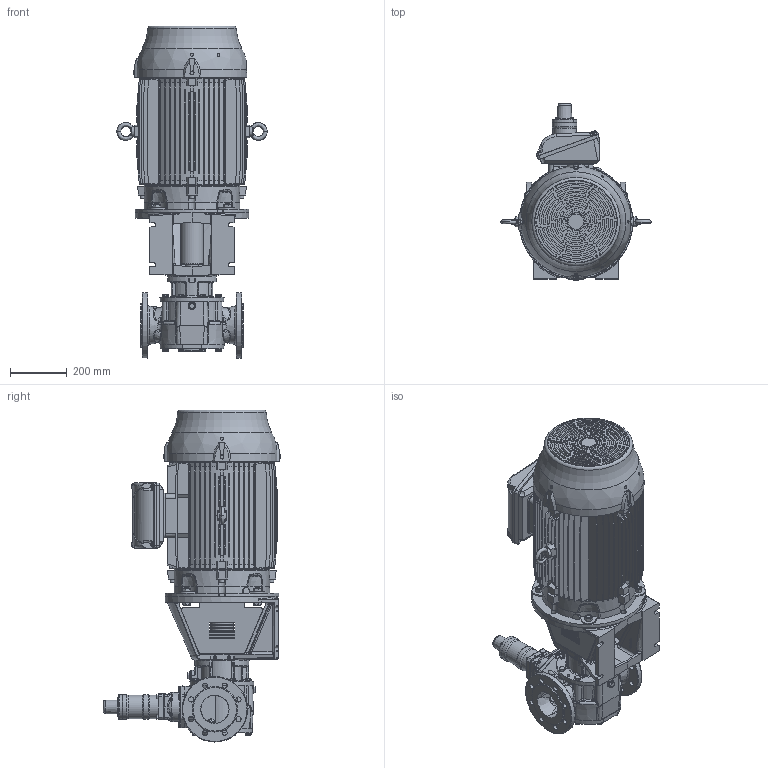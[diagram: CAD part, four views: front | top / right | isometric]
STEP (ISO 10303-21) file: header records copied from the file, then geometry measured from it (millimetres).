
FILE_DESCRIPTION(/* description */ (''),/* implementation_level */ '2;1');
FILE_NAME(/* name */ 'C:\V\JPP\Designs\GEAR PUMPS\PRODUCT ENGINEERING\EUROPE\TG BLOC\TG BLOC_86-100_G2_O_RV1-_200L-STEP.stp',/* time_stamp */ '2021-03-19T14:28:09+01:00',/* author */ ('A77THR'),/* organization */ (''),/* preprocessor_version */ 'ST-DEVELOPER v18.1',/* originating_system */ 'Autodesk Inventor 2020',/* authorisation */ '');
FILE_SCHEMA (('CONFIG_CONTROL_DESIGN','AUTOMOTIVE_DESIGN { 1 0 10303 214 3 1 1 }','TECHNICAL_DATA_PACKAGING','INTEGRATED_CNC_SCHEMA'));
Length unit declared in the file: millimetre
Products named in the file (1): TG BLOC_86-100_G2_O_RV1-_200L
Bounding box: 527.98 x 623.54 x 1166.26 mm (x, y, z)
Volume: 85169284.7 mm3; surface area: 3568548 mm2
Topology: 1 solids, 1 shells, 4739 faces, 12574 edges, 8004 vertices
Faces by surface type: plane 1841, cylinder 1134, bspline 1014, cone 557, torus 145, sphere 48
Full cylindrical faces by diameter (mm): 4 x1, 4.5 x4, 4.917 x4, 5.459 x4, 6 x4, 6.3 x1, 6.647 x1, 7 x4, 7.323 x4, 7.444 x3, 8 x7, 8.7 x4, 9 x6, 9.188 x8, 10 x16, 10.106 x7, 10.2 x2, 11 x8, 11.053 x4, 11.4 x4, 11.445 x2, 11.6 x3, 12 x4, 13 x1, 13.157 x2, 13.2 x2, 14 x8, 15.011 x2, 15.4 x8, 17.2 x20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
Entity records: 209511 total; most frequent: CARTESIAN_POINT 94904, ORIENTED_EDGE 24932, DIRECTION 20739, EDGE_CURVE 12466, AXIS2_PLACEMENT_3D 8059, VERTEX_POINT 8004, EDGE_LOOP 5160, FACE_OUTER_BOUND 4739
